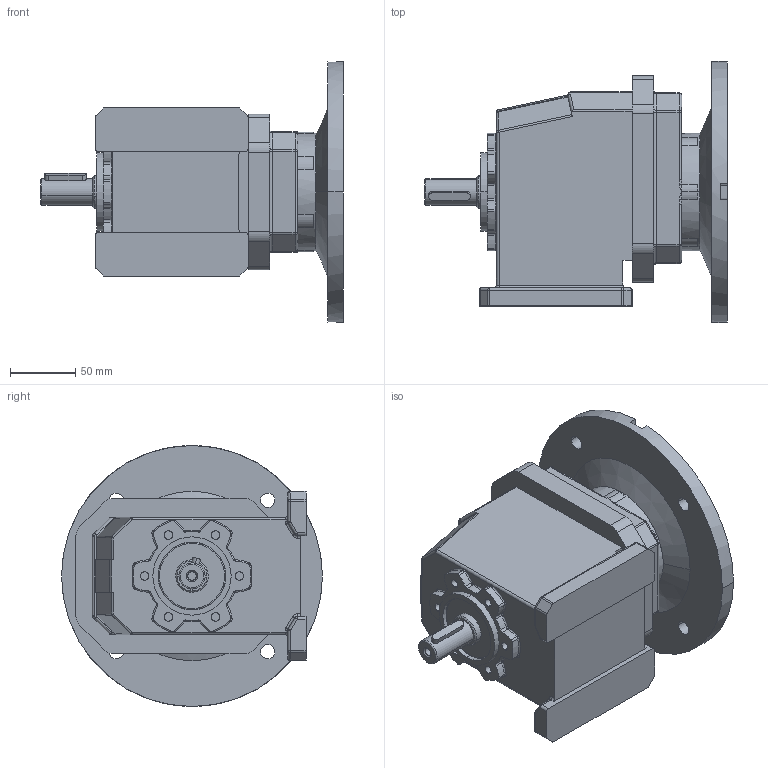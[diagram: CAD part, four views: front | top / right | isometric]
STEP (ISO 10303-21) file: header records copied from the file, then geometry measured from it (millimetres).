
FILE_DESCRIPTION (( 'STEP AP203' ), '1' );
FILE_NAME ('Red HG20 B5 19.STEP', '2019-07-16T07:04:24', ( '' ), ( '' ), 'SwSTEP 2.0', 'SolidWorks 2018', '' );
FILE_SCHEMA (( 'CONFIG_CONTROL_DESIGN' ));
Length unit declared in the file: millimetre
Products named in the file (4): HG20; Bride B5; Arbre 20 19; Red HG20 B5 19
Assembly tree (3 placements, depth 2):
  Red HG20 B5 19
    HG20
    Bride B5
    Arbre 20 19
Bounding box: 232 x 200 x 200 mm (x, y, z)
Volume: 2481116.3 mm3; surface area: 264028.4 mm2
Topology: 3 solids, 3 shells, 473 faces, 1145 edges, 679 vertices
Faces by surface type: cylinder 231, plane 107, torus 82, sphere 31, bspline 14, cone 8
Entity records: 14659 total; most frequent: CARTESIAN_POINT 2945, DIRECTION 2631, ORIENTED_EDGE 2254, EDGE_CURVE 1127, AXIS2_PLACEMENT_3D 1089, VERTEX_POINT 679, CIRCLE 624, EDGE_LOOP 516
